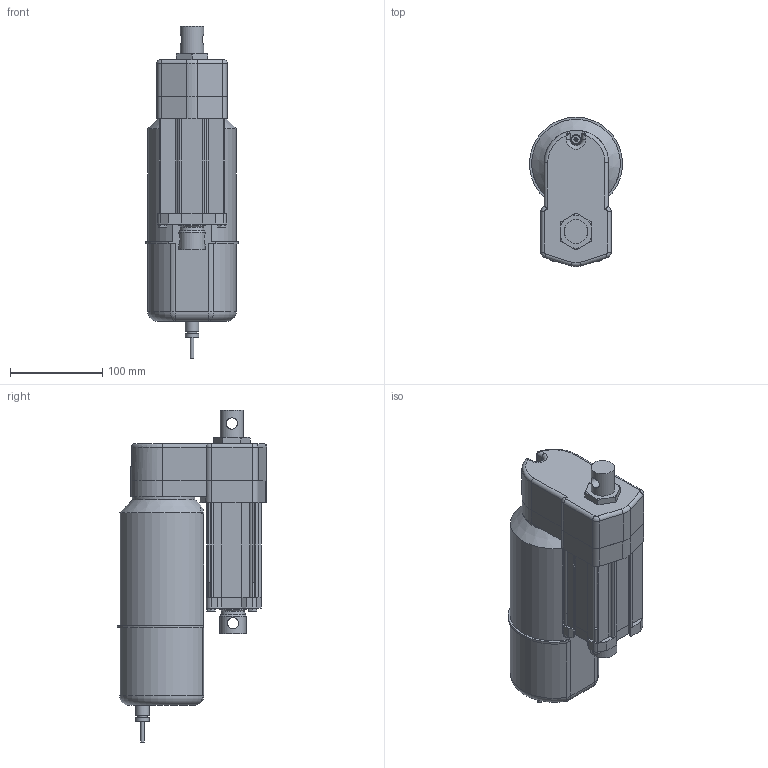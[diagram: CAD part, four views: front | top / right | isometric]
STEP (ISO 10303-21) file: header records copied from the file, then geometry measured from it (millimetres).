
FILE_DESCRIPTION (( 'STEP AP214' ), '1' );
FILE_NAME ('AA22-05A65M-05M0N-tollo.step', '2020-04-13T18:47:08', ( '' ), ( '' ), 'SwSTEP 2.0', 'SolidWorks 2010', '' );
FILE_SCHEMA (( 'AUTOMOTIVE_DESIGN' ));
Length unit declared in the file: millimetre
Products named in the file (8): Electrak-LA24-Motor-AA22-05A65M-05M0N-tollo_Electrak-LA24-Motor-AA22-05A65M-05M0N-tollo; Electrak-LA24-Rear-AA22-05A65M-05M0N-tollo_Electrak-LA24-Rear-AA22-05A65M-05M0N-tollo; Electrak-LA24-Tube-AA22-05A65M-05M0N-tollo_Electrak-LA24-Tube-AA22-05A65M-05M0N-tollo; Electrak-LA24-Rod-AA22-05A65M-05M0N-tollo_Electrak-LA24-Rod-AA22-05A65M-05M0N-tollo; Electrak-LA24-Plate-AA22-05A65M-05M0N-tollo_Electrak-LA24-Plate-AA22-05A65M-05M0N-tollo; Screw-MFX-H-M5_Screw-MFX-H-M5x24H; Screw-M6S-M5-AA22-05A65M-05M0N-tollo_Screw-M6S-M5-AA22-05A65M-05M0N-tollo; AA22-05A65M-05M0N-tollo
Assembly tree (10 placements, depth 2):
  AA22-05A65M-05M0N-tollo
    Electrak-LA24-Rod-AA22-05A65M-05M0N-tollo_Electrak-LA24-Rod-AA22-05A65M-05M0N-tollo
    Screw-M6S-M5-AA22-05A65M-05M0N-tollo_Screw-M6S-M5-AA22-05A65M-05M0N-tollo  x4
    Electrak-LA24-Tube-AA22-05A65M-05M0N-tollo_Electrak-LA24-Tube-AA22-05A65M-05M0N-tollo
    Electrak-LA24-Motor-AA22-05A65M-05M0N-tollo_Electrak-LA24-Motor-AA22-05A65M-05M0N-tollo
    Electrak-LA24-Rear-AA22-05A65M-05M0N-tollo_Electrak-LA24-Rear-AA22-05A65M-05M0N-tollo
    Electrak-LA24-Plate-AA22-05A65M-05M0N-tollo_Electrak-LA24-Plate-AA22-05A65M-05M0N-tollo
    Screw-MFX-H-M5_Screw-MFX-H-M5x24H
Bounding box: 100.99 x 162.5 x 360.3 mm (x, y, z)
Volume: 2382474.3 mm3; surface area: 226800.8 mm2
Topology: 10 solids, 10 shells, 353 faces, 886 edges, 572 vertices
Faces by surface type: plane 174, cylinder 128, cone 31, torus 15, bspline 3, sphere 2
Full cylindrical faces by diameter (mm): 4 x1, 4.126 x5, 4.8 x6, 5 x5, 5.6 x4, 7.878 x4, 9.3 x1, 10 x1, 12.2 x2, 15 x2, 25.4 x1, 28.6 x4, 47.625 x1, 68 x1
Entity records: 9633 total; most frequent: CARTESIAN_POINT 2397, DIRECTION 1446, ORIENTED_EDGE 1338, EDGE_CURVE 669, AXIS2_PLACEMENT_3D 527, VERTEX_POINT 460, LINE 392, VECTOR 392
